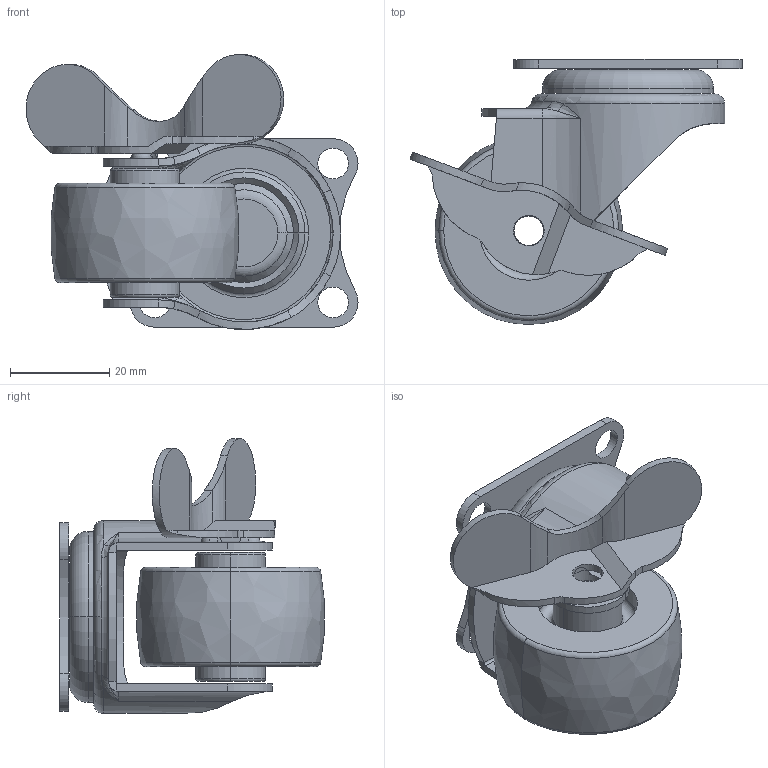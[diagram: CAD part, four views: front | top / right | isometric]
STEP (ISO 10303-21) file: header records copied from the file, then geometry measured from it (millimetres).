
FILE_DESCRIPTION((''),'2;1');
FILE_NAME('C221115-C2215-62_ASM','2025-05-16T',('Lenovo'),(''),'PRO/ENGINEER BY PARAMETRIC TECHNOLOGY CORPORATION, 2010280','PRO/ENGINEER BY PARAMETRIC TECHNOLOGY CORPORATION, 2010280','');
FILE_SCHEMA(('CONFIG_CONTROL_DESIGN'));
Length unit declared in the file: millimetre
Products named in the file (6): C22115-322; C2210-201; C2215-962; C2210-211; C2210-501; C221115-C2215-62_ASM
Assembly tree (5 placements, depth 2):
  C221115-C2215-62_ASM
    C22115-322
    C2210-201
    C2215-962
    C2210-211
    C2210-501
Bounding box: 66.95 x 53.4 x 55.46 mm (x, y, z)
Volume: 31645.3 mm3; surface area: 21606.3 mm2
Topology: 5 solids, 5 shells, 183 faces, 442 edges, 268 vertices
Faces by surface type: cylinder 63, torus 42, plane 38, cone 20, bspline 18, sphere 2
Entity records: 6286 total; most frequent: CARTESIAN_POINT 1855, DIRECTION 964, ORIENTED_EDGE 880, EDGE_CURVE 440, AXIS2_PLACEMENT_3D 414, VERTEX_POINT 268, CIRCLE 238, EDGE_LOOP 202
